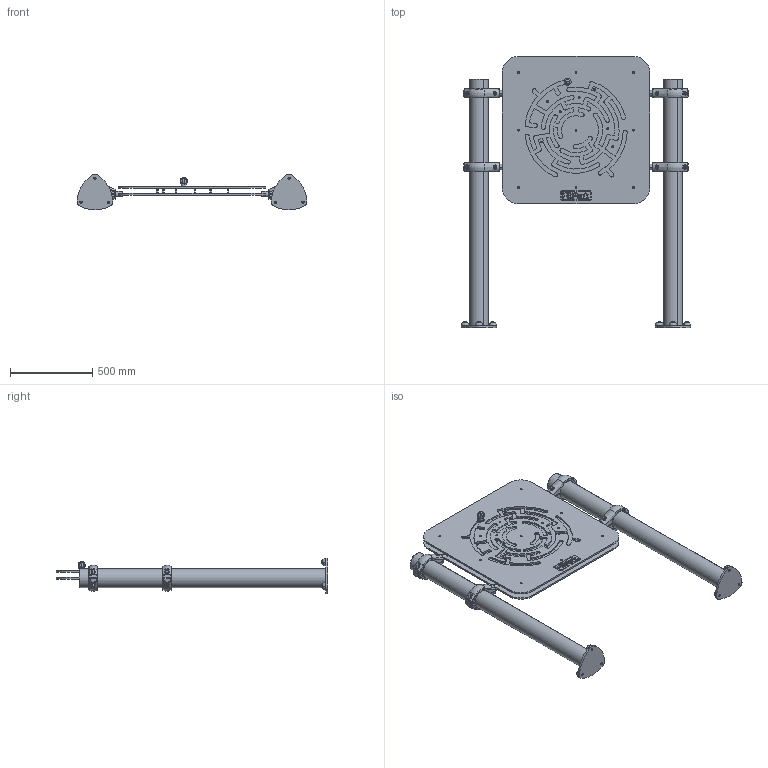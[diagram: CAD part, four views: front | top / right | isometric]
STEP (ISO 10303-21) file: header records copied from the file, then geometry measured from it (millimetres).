
FILE_DESCRIPTION (( 'STEP AP214' ), '1' );
FILE_NAME ('PMS0809 - PANNEAU LABYRINTHE.STEP', '2025-01-16T16:07:32', ( '' ), ( '' ), 'SwSTEP 2.0', 'SolidWorks 2024', '' );
FILE_SCHEMA (( 'AUTOMOTIVE_DESIGN' ));
Length unit declared in the file: millimetre
Products named in the file (1): PMS0809 - PANNEAU LABYRINTHE
Bounding box: 1402.26 x 1654.3 x 217.28 mm (x, y, z)
Surface area: 4714857.6 mm2 (no closed solid volume)
Topology: 0 solids, 99 shells, 1213 faces, 4566 edges, 3285 vertices
Faces by surface type: cylinder 393, plane 359, bspline 328, torus 70, cone 48, sphere 15
Entity records: 67467 total; most frequent: CARTESIAN_POINT 33100, ORIENTED_EDGE 6833, DIRECTION 6318, EDGE_CURVE 4559, VERTEX_POINT 3285, AXIS2_PLACEMENT_3D 2326, LINE 1666, VECTOR 1666
